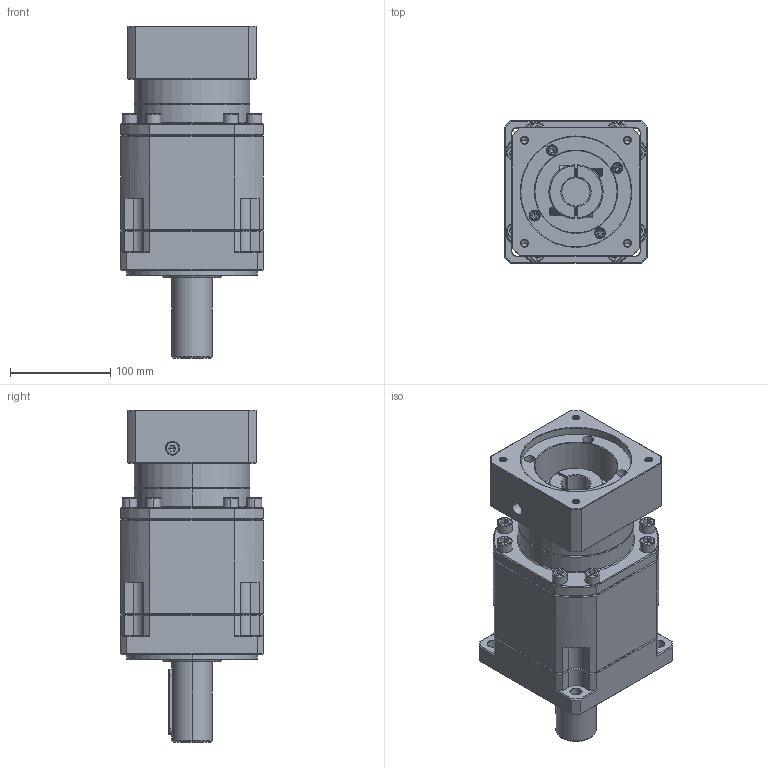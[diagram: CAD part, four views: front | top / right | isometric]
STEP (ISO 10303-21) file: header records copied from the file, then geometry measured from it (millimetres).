
FILE_DESCRIPTION (( 'STEP AP214' ), '1' );
FILE_NAME ('ZB142A-D40-L3-P2-28-110-145-M8.step', '2023-09-02T02:52:52', ( '' ), ( '' ), 'SwSTEP 2.0', 'SolidWorks 2016', '' );
FILE_SCHEMA (( 'AUTOMOTIVE_DESIGN' ));
Length unit declared in the file: millimetre
Products named in the file (1): ZB142A-D40-L3-P2-28-110-145-M8
Bounding box: 142 x 142 x 330.7 mm (x, y, z)
Volume: 3905510.7 mm3; surface area: 273573.8 mm2
Topology: 6 solids, 6 shells, 2538 faces, 6623 edges, 4210 vertices
Faces by surface type: plane 1204, cylinder 488, bspline 405, cone 383, torus 58
Entity records: 135091 total; most frequent: CARTESIAN_POINT 48196, ORIENTED_EDGE 13138, DIRECTION 10749, EDGE_CURVE 6569, VERTEX_POINT 4210, LINE 4203, VECTOR 4203, AXIS2_PLACEMENT_3D 3273
